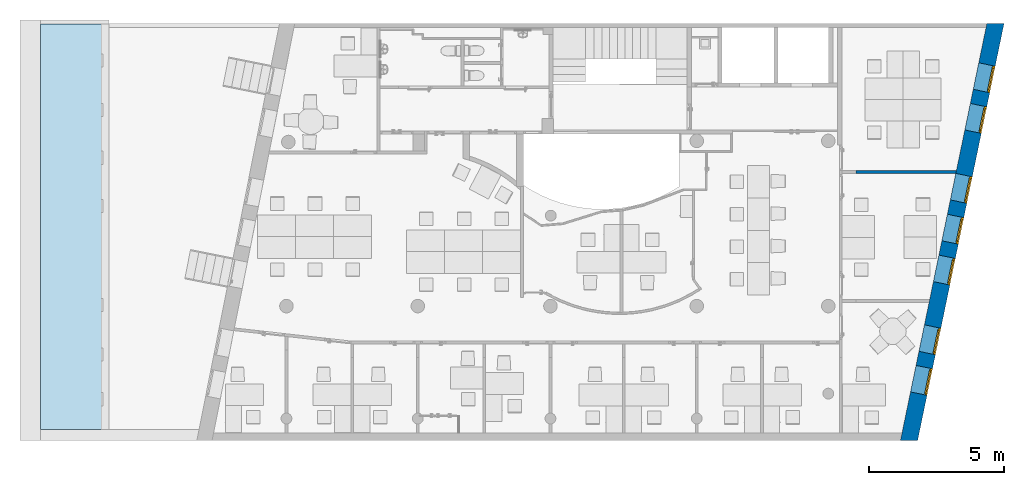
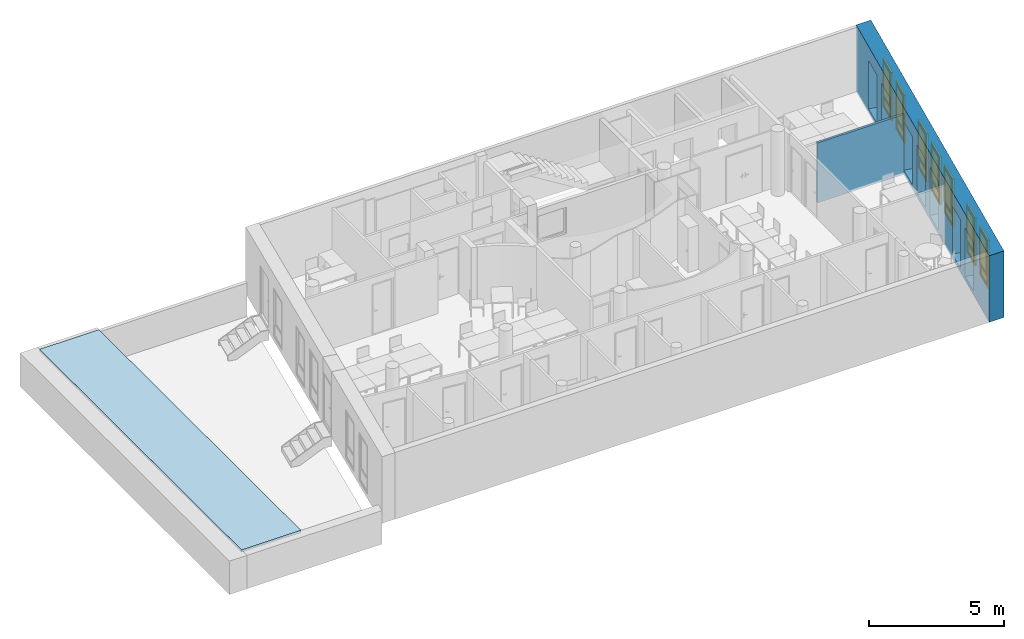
"""IFC4 building model written with IfcOpenShell, lengths in metres."""

from ifc_helpers import new_model, entity, si_unit, converted_unit, derived_unit, frame, origin, origin_with_axes, place, context, subcontext, project, spatial, polyline, outline, extrude, closed_shell, open_shell, faceted_brep, surface_model, source, transform, mapped, material, layer, layer_set, layer_usage, type_object, element, fill, save


model = new_model("IFC4")

# Units and contexts
model_context = context("Model", 3, precision=1e-05, world=origin())
body_context = subcontext(model_context, "Body", "Model", "MODEL_VIEW")
ifc_project = project(units=[si_unit("LENGTHUNIT", "METRE"), si_unit("AREAUNIT", "SQUARE_METRE"), si_unit("VOLUMEUNIT", "CUBIC_METRE"), si_unit("MASSUNIT", "GRAM", prefix="KILO"), converted_unit("PLANEANGLEUNIT", "DEGREE", entity("IfcPlaneAngleMeasure", 0.0174532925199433), si_unit("PLANEANGLEUNIT", "RADIAN"), dimensions=[0, 0, 0, 0, 0, 0, 0]), derived_unit("THERMALTRANSMITTANCEUNIT", [(si_unit("POWERUNIT", "WATT"), 1), (si_unit("THERMODYNAMICTEMPERATUREUNIT", "KELVIN"), -1), (si_unit("LENGTHUNIT", "METRE"), -2)]), derived_unit("VOLUMETRICFLOWRATEUNIT", [(si_unit("LENGTHUNIT", "METRE"), 3), (converted_unit("TIMEUNIT", "hour", entity("IfcTimeMeasure", 3600.0), si_unit("TIMEUNIT", "SECOND"), dimensions=[0, 0, 1, 0, 0, 0, 0]), -1), (si_unit("LENGTHUNIT", "METRE"), -1)])], contexts=[model_context])

# Building, storeys
building_placement = place(None, origin())
building = spatial("IfcBuilding", under=ifc_project, at=building_placement, Name="HABITATGE PLURIFAMILIAR", CompositionType="ELEMENT")
storey_1_placement = place(building_placement, frame((0.0, 0.0, 6.25)))
storey_1 = spatial("IfcBuildingStorey", under=building, at=storey_1_placement, Name="PLANTA PRIMERA", CompositionType="ELEMENT", Elevation=6.25)
storey_2_placement = place(storey_1_placement, frame((0.0, 0.0, 3.35)))
storey_2 = spatial("IfcBuildingStorey", under=storey_1, at=storey_2_placement, Name="NOU", CompositionType="PARTIAL")

# Wall, openings, doors
ifc_material_1 = material()
ifc_layer_1 = layer(ifc_material_1, 0.620000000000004)
ifc_layer_set_1 = layer_set([ifc_layer_1])
ifc_layer_usage_1 = layer_usage(ifc_layer_set_1, "AXIS2", "POSITIVE", 0.0)
wall_1_placement = place(storey_2_placement, frame((424.290656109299, 12.8406121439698, -3.45), z_axis=(0.0, 0.0, 1.0), x_axis=(0.202927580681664, 0.979193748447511, 0.0)))
wall_1 = element("IfcWall", 1, at=wall_1_placement, inside=storey_2, material=ifc_layer_usage_1, Name="Façana sur-est P1", context=body_context, shape_type="SweptSolid", body=[
    extrude(outline(polyline([(0.128488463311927, -0.620000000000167), (15.8430860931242, -0.620000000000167), (15.7146292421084, 0.0), (15.7145976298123, 0.0), (15.7145989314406, -6.28079373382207e-06), (15.561413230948, -1.37698008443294e-05), (15.5614103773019, 0.0), (0.0, 0.0), (0.128488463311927, -0.620000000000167)])), frame((-0.128488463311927, 0.620000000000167, 0.0), z_axis=(0.0, 0.0, 1.0), x_axis=(1.0, 0.0, 0.0)), (0.0, 0.0, 1.0), 3.01),
])
opening_1_placement = place(wall_1_placement, frame((1.70128743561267, 0.0, 0.19), z_axis=(7.88473229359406e-14, 1.0, 0.0), x_axis=(0.0, 0.0, 1.0)))
opening_1 = element("IfcOpeningElement", 2, at=opening_1_placement, cuts=wall_1, Name="Vano de Finestra P1", ObjectType="Opening", context=body_context, shape_type="SweptSolid", body=[
    extrude(outline(polyline([(2.19, 1.0), (2.19, 0.0), (0.0, 0.0), (0.0, 1.0), (2.19, 1.0)])), origin_with_axes(), (0.0, 0.0, 1.0), 0.620000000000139),
])
opening_2_placement = place(wall_1_placement, frame((3.23128681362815, 0.0, 0.19), z_axis=(2.56712214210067e-14, 1.0, 0.0), x_axis=(0.0, 0.0, 1.0)))
opening_2 = element("IfcOpeningElement", 3, at=opening_2_placement, cuts=wall_1, Name="Vano de Finestra P1", ObjectType="Opening", context=body_context, shape_type="SweptSolid", body=[
    extrude(outline(polyline([(2.19, 1.0), (2.19, 0.0), (0.0, 0.0), (0.0, 1.0), (2.19, 1.0)])), origin_with_axes(), (0.0, 0.0, 1.0), 0.620000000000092),
])
opening_3_placement = place(wall_1_placement, frame((5.86128173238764, 0.0, 0.19), z_axis=(-4.10739542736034e-14, 1.0, 0.0), x_axis=(0.0, 0.0, 1.0)))
opening_3 = element("IfcOpeningElement", 4, at=opening_3_placement, cuts=wall_1, Name="Vano de Finestra P1", ObjectType="Opening", context=body_context, shape_type="SweptSolid", body=[
    extrude(outline(polyline([(2.19, 1.0), (2.19, 0.0), (0.0, 0.0), (0.0, 1.0), (2.19, 1.0)])), origin_with_axes(), (0.0, 0.0, 1.0), 0.620000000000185),
])
opening_4_placement = place(wall_1_placement, frame((7.40085452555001, 0.0, 0.19), z_axis=(2.05369771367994e-14, 1.0, 0.0), x_axis=(0.0, 0.0, 1.0)))
opening_4 = element("IfcOpeningElement", 5, at=opening_4_placement, cuts=wall_1, Name="Vano de Finestra P1", ObjectType="Opening", context=body_context, shape_type="SweptSolid", body=[
    extrude(outline(polyline([(2.19, 1.00000000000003), (2.19, 0.0), (0.0, 0.0), (0.0, 1.00000000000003), (2.19, 1.00000000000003)])), origin_with_axes(), (0.0, 0.0, 1.0), 0.620000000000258),
])
opening_5_placement = place(wall_1_placement, frame((11.5792835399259, 0.0, 0.19), z_axis=(7.62802007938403e-14, 1.0, 0.0), x_axis=(0.0, 0.0, 1.0)))
opening_5 = element("IfcOpeningElement", 6, at=opening_5_placement, cuts=wall_1, Name="Vano de Finestra P1", ObjectType="Opening", context=body_context, shape_type="SweptSolid", body=[
    extrude(outline(polyline([(2.19, 1.00000000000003), (2.19, 0.0), (0.0, 0.0), (0.0, 1.00000000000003), (2.19, 1.00000000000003)])), origin_with_axes(), (0.0, 0.0, 1.0), 0.620000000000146),
])
opening_6_placement = place(wall_1_placement, frame((13.111282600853, 0.0, 0.19), z_axis=(2.64046848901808e-14, 1.0, 0.0), x_axis=(0.0, 0.0, 1.0)))
opening_6 = element("IfcOpeningElement", 7, at=opening_6_placement, cuts=wall_1, Name="Vano de Finestra P1", ObjectType="Opening", context=body_context, shape_type="SweptSolid", body=[
    extrude(outline(polyline([(2.19, 1.0), (2.19, 0.0), (0.0, 0.0), (0.0, 1.0), (2.19, 1.0)])), origin_with_axes(), (0.0, 0.0, 1.0), 0.620000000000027),
])
opening_7_placement = place(wall_1_placement, frame((8.94128026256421, 0.0, 0.19), z_axis=(2.64046848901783e-14, 1.0, 0.0), x_axis=(0.0, 0.0, 1.0)))
opening_7 = element("IfcOpeningElement", 8, at=opening_7_placement, cuts=wall_1, Name="Vano de Finestra P1", ObjectType="Opening", context=body_context, shape_type="SweptSolid", body=[
    extrude(outline(polyline([(2.19, 1.00000000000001), (2.19, 0.0), (0.0, 0.0), (0.0, 1.00000000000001), (2.19, 1.00000000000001)])), origin_with_axes(), (0.0, 0.0, 1.0), 0.620000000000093),
])
door_type_1 = type_object("IfcDoorType", Name="Finestra P1", OperationType="NOTDEFINED", ParameterTakesPrecedence=False, PredefinedType="DOOR")
shared_shape = source(origin_with_axes(), body_context, "Body", "SurfaceModel", [
    surface_model("IfcShellBasedSurfaceModel", [(0.0, 0.0700000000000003, 2.19), (0.0, 0.07, 0.0), (0.07, 0.07, 0.0), (0.07, 0.0700000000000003, 2.19), (0.0, 0.0, 0.0), (0.0, 0.0, 2.19), (0.07, 0.0, 2.19), (0.07, 0.0, 0.0)], [closed_shell([[[0, 1, 2, 3]], [[4, 5, 6, 7]], [[1, 0, 5, 4]], [[2, 1, 4, 7]], [[3, 2, 7, 6]], [[0, 3, 6, 5]]], orient=[[False], [False], [False], [False], [False], [False]])]),
    surface_model("IfcShellBasedSurfaceModel", [(0.929999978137, 0.0700000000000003, 2.19), (0.929999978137, 0.07, 0.0), (0.999999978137, 0.07, 0.0), (0.999999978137, 0.0700000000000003, 2.19), (0.929999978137, 0.0, 0.0), (0.929999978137, 0.0, 2.19), (0.999999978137, 0.0, 2.19), (0.999999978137, 0.0, 0.0)], [closed_shell([[[0, 1, 2, 3]], [[4, 5, 6, 7]], [[1, 0, 5, 4]], [[2, 1, 4, 7]], [[3, 2, 7, 6]], [[0, 3, 6, 5]]], orient=[[False], [False], [False], [False], [False], [False]])]),
    surface_model("IfcShellBasedSurfaceModel", [(0.07, 0.07, 0.07), (0.07, 0.07, 0.0), (0.929999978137, 0.07, 0.0), (0.929999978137, 0.07, 0.07), (0.07, 0.0, 0.0), (0.07, 0.0, 0.07), (0.929999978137, 0.0, 0.07), (0.929999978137, 0.0, 0.0)], [closed_shell([[[0, 1, 2, 3]], [[4, 5, 6, 7]], [[1, 0, 5, 4]], [[2, 1, 4, 7]], [[3, 2, 7, 6]], [[0, 3, 6, 5]]], orient=[[False], [False], [False], [False], [False], [False]])]),
    surface_model("IfcShellBasedSurfaceModel", [(0.07, 0.0700000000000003, 2.19), (0.07, 0.0700000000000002, 2.12), (0.929999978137, 0.0700000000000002, 2.12), (0.929999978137, 0.0700000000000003, 2.19), (0.07, 0.0, 2.12), (0.07, 0.0, 2.19), (0.929999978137, 0.0, 2.19), (0.929999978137, 0.0, 2.12)], [closed_shell([[[0, 1, 2, 3]], [[4, 5, 6, 7]], [[1, 0, 5, 4]], [[2, 1, 4, 7]], [[3, 2, 7, 6]], [[0, 3, 6, 5]]], orient=[[False], [False], [False], [False], [False], [False]])]),
    surface_model("IfcShellBasedSurfaceModel", [(0.07, 0.035, 0.07), (0.929999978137, 0.035, 0.07), (0.929999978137, 0.0350000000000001, 0.57), (0.07, 0.0350000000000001, 0.57)], [open_shell([[[0, 1, 2, 3]]], orient=[[False]])]),
    surface_model("IfcShellBasedSurfaceModel", [(0.05, 0.1, 2.14), (0.05, 0.1, 0.551), (0.1, 0.1, 0.551), (0.1, 0.1, 2.14), (0.05, 0.0500000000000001, 0.551), (0.05, 0.0500000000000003, 2.14), (0.1, 0.0500000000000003, 2.14), (0.1, 0.0500000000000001, 0.551)], [closed_shell([[[0, 1, 2, 3]], [[4, 5, 6, 7]], [[1, 0, 5, 4]], [[2, 1, 4, 7]], [[3, 2, 7, 6]], [[0, 3, 6, 5]]], orient=[[False], [False], [False], [False], [False], [False]])]),
    surface_model("IfcShellBasedSurfaceModel", [(0.899999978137, 0.1, 2.14), (0.899999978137, 0.1, 0.551), (0.949999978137, 0.1, 0.551), (0.949999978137, 0.1, 2.14), (0.899999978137, 0.0500000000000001, 0.551), (0.899999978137, 0.0500000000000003, 2.14), (0.949999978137, 0.0500000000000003, 2.14), (0.949999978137, 0.0500000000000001, 0.551)], [closed_shell([[[0, 1, 2, 3]], [[4, 5, 6, 7]], [[1, 0, 5, 4]], [[2, 1, 4, 7]], [[3, 2, 7, 6]], [[0, 3, 6, 5]]], orient=[[False], [False], [False], [False], [False], [False]])]),
    surface_model("IfcShellBasedSurfaceModel", [(0.1, 0.1, 0.601), (0.1, 0.1, 0.551), (0.899999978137, 0.1, 0.551), (0.899999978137, 0.1, 0.601), (0.1, 0.0500000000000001, 0.551), (0.1, 0.0500000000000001, 0.601), (0.899999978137, 0.0500000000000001, 0.601), (0.899999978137, 0.0500000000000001, 0.551)], [closed_shell([[[0, 1, 2, 3]], [[4, 5, 6, 7]], [[1, 0, 5, 4]], [[2, 1, 4, 7]], [[3, 2, 7, 6]], [[0, 3, 6, 5]]], orient=[[False], [False], [False], [False], [False], [False]])]),
    surface_model("IfcShellBasedSurfaceModel", [(0.1, 0.1, 2.14), (0.1, 0.1, 2.09), (0.899999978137, 0.1, 2.09), (0.899999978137, 0.1, 2.14), (0.1, 0.0500000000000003, 2.09), (0.1, 0.0500000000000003, 2.14), (0.899999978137, 0.0500000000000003, 2.14), (0.899999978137, 0.0500000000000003, 2.09)], [closed_shell([[[0, 1, 2, 3]], [[4, 5, 6, 7]], [[1, 0, 5, 4]], [[2, 1, 4, 7]], [[3, 2, 7, 6]], [[0, 3, 6, 5]]], orient=[[False], [False], [False], [False], [False], [False]])]),
    surface_model("IfcShellBasedSurfaceModel", [(0.1, 0.0750000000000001, 0.601), (0.899999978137, 0.0750000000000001, 0.601), (0.899999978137, 0.0750000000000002, 2.09), (0.1, 0.0750000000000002, 2.09)], [open_shell([[[0, 1, 2, 3]]], orient=[[False]])]),
])
door_1_placement = place(opening_1_placement, frame((0.0, 0.0, 0.0), z_axis=(1.0, 0.0, 0.0), x_axis=(0.0, 1.00000002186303, -2.52575738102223e-15)))
door_1 = element("IfcDoor", 9, at=door_1_placement, inside=storey_2, type_object=door_type_1, Name="Finestra P1", OverallHeight=2.19, OverallWidth=1.0, context=body_context, shape_type="MappedRepresentation", body=[
    mapped(shared_shape, transform((0.0, 0.0, 0.0), x_axis=(1.0, 0.0, 0.0), y_axis=(0.0, 1.0, 0.0), z_axis=(0.0, 0.0, 1.0), scale=1.00000002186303)),
])
fill(opening_1, door_1)
door_type_2 = type_object("IfcDoorType", Name="Finestra P1", OperationType="NOTDEFINED", ParameterTakesPrecedence=False, PredefinedType="DOOR")
door_2_placement = place(opening_2_placement, frame((0.0, 0.0, 0.0), z_axis=(1.0, 0.0, 0.0), x_axis=(0.0, 1.00000002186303, 1.55431223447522e-15)))
door_2 = element("IfcDoor", 10, at=door_2_placement, inside=storey_2, type_object=door_type_2, Name="Finestra P1", OverallHeight=2.19, OverallWidth=1.0, context=body_context, shape_type="MappedRepresentation", body=[
    mapped(shared_shape, transform((0.0, 0.0, 0.0), x_axis=(1.0, 0.0, 0.0), y_axis=(0.0, 1.0, 0.0), z_axis=(0.0, 0.0, 1.0), scale=1.00000002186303)),
])
fill(opening_2, door_2)
door_type_3 = type_object("IfcDoorType", Name="Finestra P1", OperationType="NOTDEFINED", ParameterTakesPrecedence=False, PredefinedType="DOOR")
door_3_placement = place(opening_3_placement, frame((0.0, 0.0, 0.0), z_axis=(1.0, 0.0, 0.0), x_axis=(0.0, 1.00000002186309, 5.8564264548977e-15)))
door_3 = element("IfcDoor", 11, at=door_3_placement, inside=storey_2, type_object=door_type_3, Name="Finestra P1", OverallHeight=2.19, OverallWidth=1.0, context=body_context, shape_type="MappedRepresentation", body=[
    mapped(shared_shape, transform((0.0, 0.0, 0.0), x_axis=(1.0, 0.0, 0.0), y_axis=(0.0, 1.0, 0.0), z_axis=(0.0, 0.0, 1.0), scale=1.00000002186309)),
])
fill(opening_3, door_3)
door_type_4 = type_object("IfcDoorType", Name="Finestra P1", OperationType="NOTDEFINED", ParameterTakesPrecedence=False, PredefinedType="DOOR")
door_4_placement = place(opening_4_placement, frame((0.0, 0.0, 0.0), z_axis=(1.0, 0.0, 0.0), x_axis=(0.0, 1.00000002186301, -1.77635683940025e-15)))
door_4 = element("IfcDoor", 12, at=door_4_placement, inside=storey_2, type_object=door_type_4, Name="Finestra P1", OverallHeight=2.19, OverallWidth=1.0, context=body_context, shape_type="MappedRepresentation", body=[
    mapped(shared_shape, transform((0.0, 0.0, 0.0), x_axis=(1.0, 0.0, 0.0), y_axis=(0.0, 1.0, 0.0), z_axis=(0.0, 0.0, 1.0), scale=1.00000002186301)),
])
fill(opening_4, door_4)
door_type_5 = type_object("IfcDoorType", Name="Finestra P1", OperationType="NOTDEFINED", ParameterTakesPrecedence=False, PredefinedType="DOOR")
door_5_placement = place(opening_5_placement, frame((0.0, 0.0, 0.0), z_axis=(1.0, 0.0, 0.0), x_axis=(0.0, 1.00000002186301, -3.77475828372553e-15)))
door_5 = element("IfcDoor", 13, at=door_5_placement, inside=storey_2, type_object=door_type_5, Name="Finestra P1", OverallHeight=2.19, OverallWidth=1.0, context=body_context, shape_type="MappedRepresentation", body=[
    mapped(shared_shape, transform((0.0, 0.0, 0.0), x_axis=(1.0, 0.0, 0.0), y_axis=(0.0, 1.0, 0.0), z_axis=(0.0, 0.0, 1.0), scale=1.00000002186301)),
])
fill(opening_5, door_5)
door_type_6 = type_object("IfcDoorType", Name="Finestra P1", OperationType="NOTDEFINED", ParameterTakesPrecedence=False, PredefinedType="DOOR")
door_6_placement = place(opening_6_placement, frame((0.0, 0.0, 0.0), z_axis=(1.0, 0.0, 0.0), x_axis=(0.0, 1.00000002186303, -5.36515276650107e-14)))
door_6 = element("IfcDoor", 14, at=door_6_placement, inside=storey_2, type_object=door_type_6, Name="Finestra P1", OverallHeight=2.19, OverallWidth=1.0, context=body_context, shape_type="MappedRepresentation", body=[
    mapped(shared_shape, transform((0.0, 0.0, 0.0), x_axis=(1.0, 0.0, 0.0), y_axis=(0.0, 1.0, 0.0), z_axis=(0.0, 0.0, 1.0), scale=1.00000002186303)),
])
fill(opening_6, door_6)
door_type_7 = type_object("IfcDoorType", Name="Finestra P1", OperationType="NOTDEFINED", ParameterTakesPrecedence=False, PredefinedType="DOOR")
door_7_placement = place(opening_7_placement, frame((0.0, 0.0, 0.0), z_axis=(1.0, 0.0, 0.0), x_axis=(0.0, 1.00000002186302, 1.4432899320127e-15)))
door_7 = element("IfcDoor", 15, at=door_7_placement, inside=storey_2, type_object=door_type_7, Name="Finestra P1", OverallHeight=2.19, OverallWidth=1.0, context=body_context, shape_type="MappedRepresentation", body=[
    mapped(shared_shape, transform((0.0, 0.0, 0.0), x_axis=(1.0, 0.0, 0.0), y_axis=(0.0, 1.0, 0.0), z_axis=(0.0, 0.0, 1.0), scale=1.00000002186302)),
])
fill(opening_7, door_7)

# Wall
ifc_material_2 = material()
ifc_layer_2 = layer(ifc_material_2, 0.1)
ifc_layer_set_2 = layer_set([ifc_layer_2])
ifc_layer_usage_2 = layer_usage(ifc_layer_set_2, "AXIS2", "POSITIVE", 0.0)
wall_2_placement = place(storey_2_placement, frame((422.006984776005, 22.7007426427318, -3.45)))
element("IfcWall", 16, at=wall_2_placement, inside=storey_2, material=ifc_layer_usage_2, Name="Envans P1", context=body_context, shape_type="SweptSolid", body=[
    extrude(outline(polyline([(0.0, 0.0), (3.69390544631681, 0.0), (3.71462939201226, 0.1), (0.0, 0.1), (0.0, 0.0)])), origin_with_axes(), (0.0, 0.0, 1.0), 2.71),
])

# Roof
roof_placement = place(storey_2_placement, frame((391.899713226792, 13.2406121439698, -2.97)))
element("IfcRoof", 17, at=roof_placement, inside=storey_2, Name="Cobertura de vidres P1", PredefinedType="NOTDEFINED", context=body_context, shape_type="Brep", body=[
    faceted_brep([(2.53983394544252, 0.0, 0.0), (0.0, 0.0, 0.0), (0.0, 0.0, 0.1), (2.53983394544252, 0.0, 0.1), (0.0, 14.9732444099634, 0.0), (0.0, 14.9732444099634, 0.1), (2.53983394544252, 14.9732444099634, 0.0), (2.53983394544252, 14.9732444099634, 0.1)], [[[0, 1, 2, 3]], [[1, 4, 5, 2]], [[4, 6, 7, 5]], [[6, 0, 3, 7]], [[7, 3, 2, 5]], [[0, 6, 4, 1]]], orient=[[False], [False], [False], [False], [False], [False]]),
])

save(model, "model.ifc")
